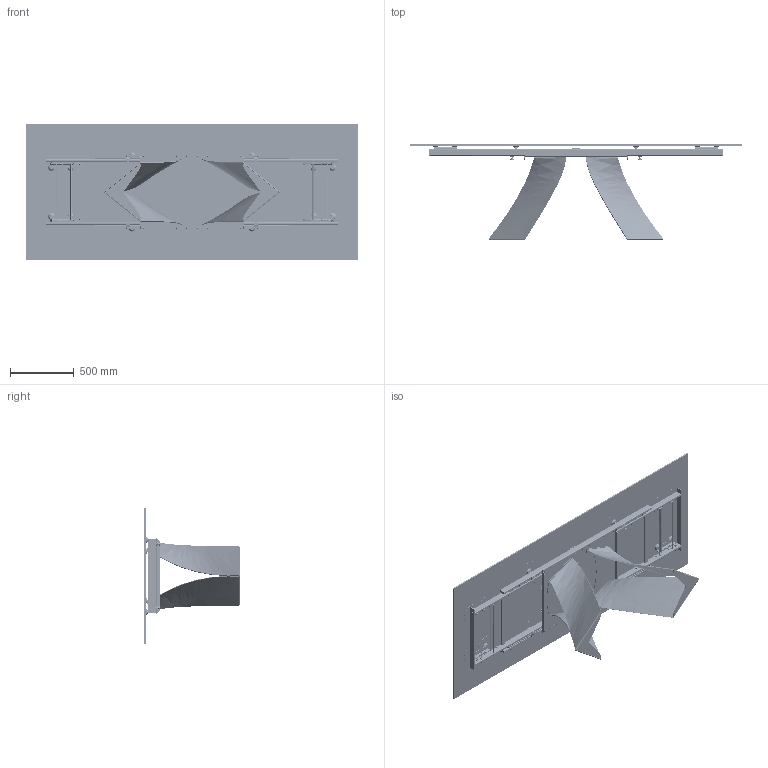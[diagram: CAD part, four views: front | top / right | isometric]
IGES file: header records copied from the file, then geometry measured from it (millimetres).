
Start section: SolidWorks IGES file using analytic representation for surfaces
Global section: file name: Y:\eforma\TECNICO\SOLIDWORKS\E-FORMA\1-TAVOLI\TWIST ALLUNGABILE\08 modelli 3D web\TW31G_Twist 180-260_Open_Glass.IGS; native system: SolidWorks 2022; preprocessor: SolidWorks 2022; author: eforma.tech; date: 240801.154633; units: millimetre
Bounding box: 2600 x 745.55 x 1060 mm (x, y, z)
Volume: 37748397.6 mm3; surface area: 12658620.7 mm2
Topology: 38 solids, 38 shells, 8136 faces, 87182 edges, 86250 vertices
Faces by surface type: revolution 4354, bspline 3454, plane 328
